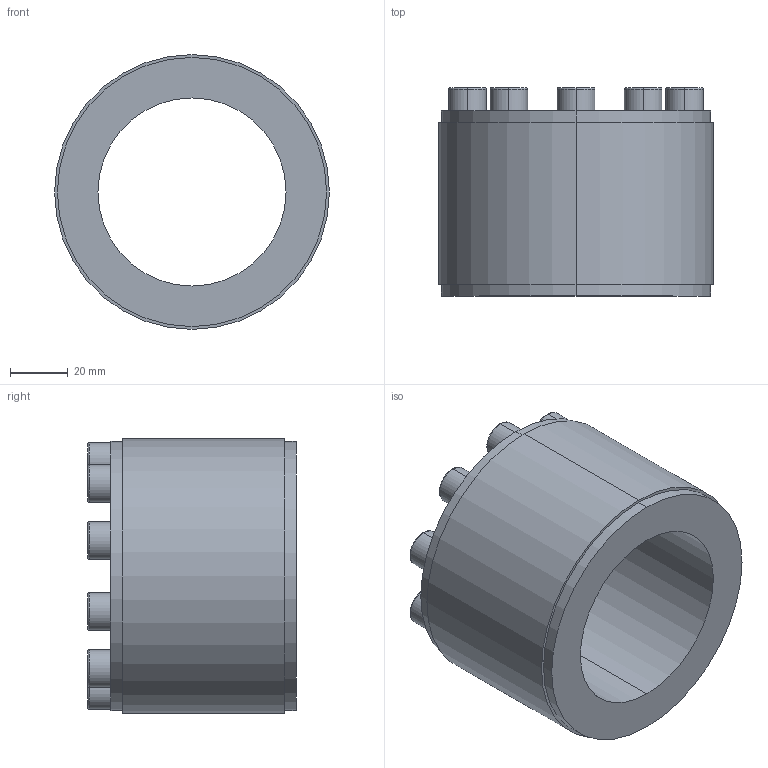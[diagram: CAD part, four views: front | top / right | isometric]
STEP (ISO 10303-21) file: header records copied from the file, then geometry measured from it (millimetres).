
FILE_DESCRIPTION (( 'STEP AP203' ), '1' );
FILE_NAME ('PL-D1 65-95.STEP', '2021-10-23T00:16:00', ( '' ), ( '' ), 'SwSTEP 2.0', 'SolidWorks 2018', '' );
FILE_SCHEMA (( 'CONFIG_CONTROL_DESIGN' ));
Length unit declared in the file: millimetre
Products named in the file (1): PL-D1 65-95
Bounding box: 95 x 72 x 95 mm (x, y, z)
Volume: 248261.8 mm3; surface area: 43669.3 mm2
Topology: 1 solids, 1 shells, 132 faces, 304 edges, 196 vertices
Faces by surface type: plane 84, cylinder 28, torus 20
Entity records: 3805 total; most frequent: DIRECTION 666, CARTESIAN_POINT 633, ORIENTED_EDGE 608, EDGE_CURVE 304, AXIS2_PLACEMENT_3D 229, VECTOR 208, LINE 208, VERTEX_POINT 196
